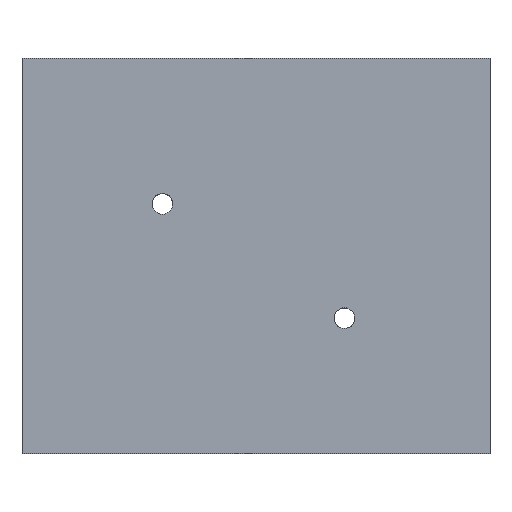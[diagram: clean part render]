
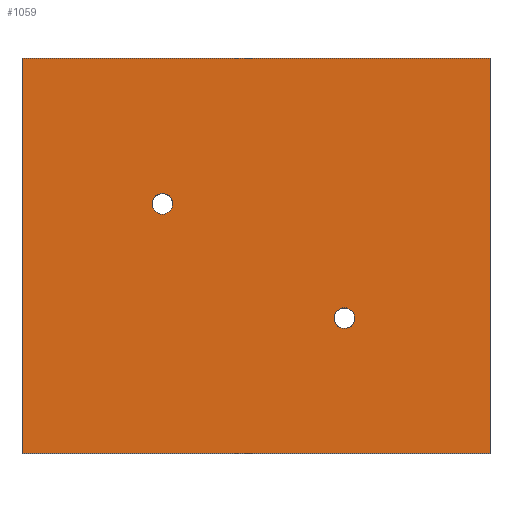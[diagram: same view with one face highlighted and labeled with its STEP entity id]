
A CAD part, top view. The second image highlights one B-rep face of the part: STEP entity #1059.
In plain terms, the highlighted planar face has unit normal (0, 0, 1).
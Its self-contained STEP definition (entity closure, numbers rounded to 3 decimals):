
#26 = VERTEX_POINT ( 'NONE', #215 ) ;
#40 = CIRCLE ( 'NONE', #160, 1. ) ;
#48 = ORIENTED_EDGE ( 'NONE', *, *, #495, .F. ) ;
#57 = VERTEX_POINT ( 'NONE', #210 ) ;
#71 = CARTESIAN_POINT ( 'NONE',  ( 0., 0., 12.5 ) ) ;
#73 = ORIENTED_EDGE ( 'NONE', *, *, #532, .T. ) ;
#98 = ORIENTED_EDGE ( 'NONE', *, *, #1187, .T. ) ;
#137 = VECTOR ( 'NONE', #1274, 1000. ) ;
#144 = CARTESIAN_POINT ( 'NONE',  ( 9.5, -6., 12.5 ) ) ;
#147 = VERTEX_POINT ( 'NONE', #850 ) ;
#154 = VERTEX_POINT ( 'NONE', #1193 ) ;
#160 = AXIS2_PLACEMENT_3D ( 'NONE', #730, #951, #1179 ) ;
#203 = DIRECTION ( 'NONE',  ( 0., 0., 1. ) ) ;
#210 = CARTESIAN_POINT ( 'NONE',  ( 22.5, 19., 12.5 ) ) ;
#215 = CARTESIAN_POINT ( 'NONE',  ( -22.5, 19., 12.5 ) ) ;
#229 = LINE ( 'NONE', #1267, #1159 ) ;
#287 = CARTESIAN_POINT ( 'NONE',  ( 8.5, -6., 12.5 ) ) ;
#318 = DIRECTION ( 'NONE',  ( 1., 0., 0. ) ) ;
#326 = DIRECTION ( 'NONE',  ( 0., -1., 0. ) ) ;
#343 = LINE ( 'NONE', #959, #1075 ) ;
#363 = EDGE_CURVE ( 'NONE', #653, #1218, #1227, .T. ) ;
#364 = CARTESIAN_POINT ( 'NONE',  ( -9., 5., 12.5 ) ) ;
#430 = DIRECTION ( 'NONE',  ( 1., 0., 0. ) ) ;
#433 = EDGE_CURVE ( 'NONE', #57, #26, #1045, .T. ) ;
#474 = DIRECTION ( 'NONE',  ( 0., 0., 1. ) ) ;
#484 = ORIENTED_EDGE ( 'NONE', *, *, #1340, .F. ) ;
#495 = EDGE_CURVE ( 'NONE', #669, #568, #963, .T. ) ;
#524 = CARTESIAN_POINT ( 'NONE',  ( -9., 5., 12.5 ) ) ;
#532 = EDGE_CURVE ( 'NONE', #26, #147, #229, .T. ) ;
#539 = ORIENTED_EDGE ( 'NONE', *, *, #433, .T. ) ;
#559 = EDGE_CURVE ( 'NONE', #154, #57, #343, .T. ) ;
#568 = VERTEX_POINT ( 'NONE', #1291 ) ;
#573 = AXIS2_PLACEMENT_3D ( 'NONE', #287, #693, #605 ) ;
#590 = EDGE_LOOP ( 'NONE', ( #48, #484 ) ) ;
#605 = DIRECTION ( 'NONE',  ( 1., 0., 0. ) ) ;
#653 = VERTEX_POINT ( 'NONE', #144 ) ;
#669 = VERTEX_POINT ( 'NONE', #673 ) ;
#672 = FACE_BOUND ( 'NONE', #1237, .T. ) ;
#673 = CARTESIAN_POINT ( 'NONE',  ( -8., 5., 12.5 ) ) ;
#693 = DIRECTION ( 'NONE',  ( 0., 0., 1. ) ) ;
#720 = AXIS2_PLACEMENT_3D ( 'NONE', #524, #203, #430 ) ;
#730 = CARTESIAN_POINT ( 'NONE',  ( 8.5, -6., 12.5 ) ) ;
#734 = LINE ( 'NONE', #839, #830 ) ;
#756 = CARTESIAN_POINT ( 'NONE',  ( 7.5, -6., 12.5 ) ) ;
#783 = EDGE_LOOP ( 'NONE', ( #960, #539, #73, #98 ) ) ;
#795 = ORIENTED_EDGE ( 'NONE', *, *, #363, .F. ) ;
#797 = FACE_OUTER_BOUND ( 'NONE', #783, .T. ) ;
#830 = VECTOR ( 'NONE', #318, 1000. ) ;
#839 = CARTESIAN_POINT ( 'NONE',  ( -22.5, -19., 12.5 ) ) ;
#850 = CARTESIAN_POINT ( 'NONE',  ( -22.5, -19., 12.5 ) ) ;
#864 = ORIENTED_EDGE ( 'NONE', *, *, #882, .F. ) ;
#882 = EDGE_CURVE ( 'NONE', #1218, #653, #40, .T. ) ;
#889 = DIRECTION ( 'NONE',  ( 0., 0., -1. ) ) ;
#942 = AXIS2_PLACEMENT_3D ( 'NONE', #364, #474, #989 ) ;
#951 = DIRECTION ( 'NONE',  ( 0., 0., 1. ) ) ;
#959 = CARTESIAN_POINT ( 'NONE',  ( 22.5, -19., 12.5 ) ) ;
#960 = ORIENTED_EDGE ( 'NONE', *, *, #559, .T. ) ;
#963 = CIRCLE ( 'NONE', #720, 1. ) ;
#989 = DIRECTION ( 'NONE',  ( 1., 0., 0. ) ) ;
#997 = PLANE ( 'NONE',  #1212 ) ;
#1045 = LINE ( 'NONE', #1157, #137 ) ;
#1059 = ADVANCED_FACE ( 'NONE', ( #1306, #672, #797 ), #997, .F. ) ;
#1075 = VECTOR ( 'NONE', #1173, 1000. ) ;
#1079 = CIRCLE ( 'NONE', #942, 1. ) ;
#1157 = CARTESIAN_POINT ( 'NONE',  ( -22.5, 19., 12.5 ) ) ;
#1159 = VECTOR ( 'NONE', #326, 1000. ) ;
#1173 = DIRECTION ( 'NONE',  ( 0., 1., 0. ) ) ;
#1179 = DIRECTION ( 'NONE',  ( 1., 0., 0. ) ) ;
#1187 = EDGE_CURVE ( 'NONE', #147, #154, #734, .T. ) ;
#1193 = CARTESIAN_POINT ( 'NONE',  ( 22.5, -19., 12.5 ) ) ;
#1212 = AXIS2_PLACEMENT_3D ( 'NONE', #71, #889, #1298 ) ;
#1218 = VERTEX_POINT ( 'NONE', #756 ) ;
#1227 = CIRCLE ( 'NONE', #573, 1. ) ;
#1237 = EDGE_LOOP ( 'NONE', ( #795, #864 ) ) ;
#1267 = CARTESIAN_POINT ( 'NONE',  ( -22.5, -19., 12.5 ) ) ;
#1274 = DIRECTION ( 'NONE',  ( -1., 0., 0. ) ) ;
#1291 = CARTESIAN_POINT ( 'NONE',  ( -10., 5., 12.5 ) ) ;
#1298 = DIRECTION ( 'NONE',  ( -1., 0., 0. ) ) ;
#1306 = FACE_BOUND ( 'NONE', #590, .T. ) ;
#1340 = EDGE_CURVE ( 'NONE', #568, #669, #1079, .T. ) ;
